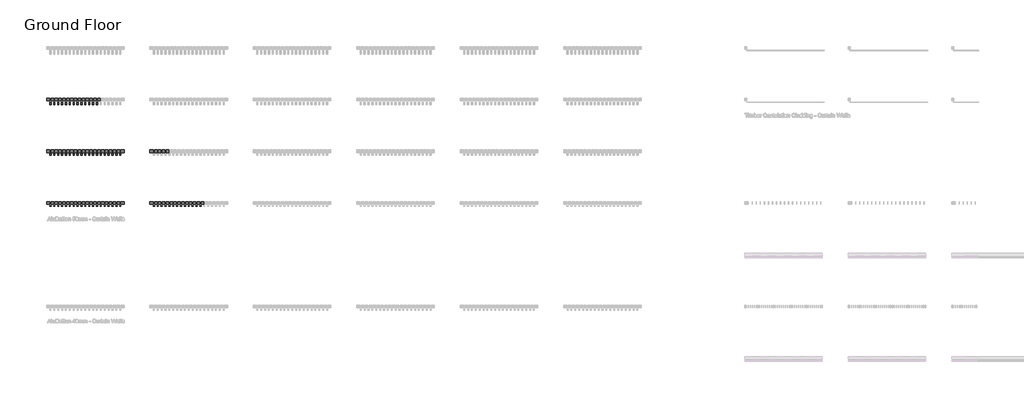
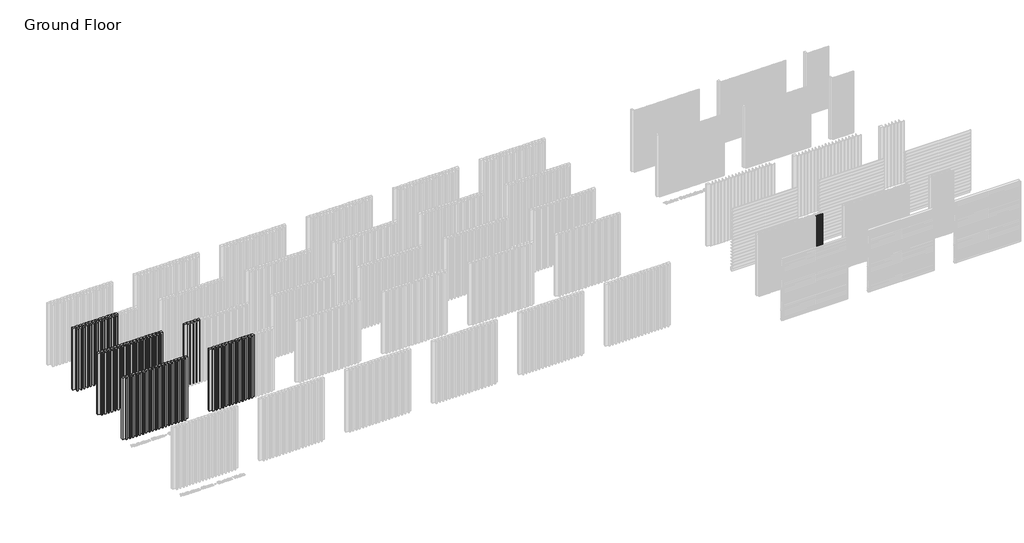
# One storey, part 12 of 350: 73 plates, 68 members.
"""IFC4 building model written with IfcOpenShell, lengths in millimetres."""

from ifc_helpers import new_model, si_unit, origin, place, context, project, spatial, transform, mapped, element, save
from components import rectangular_mullion_1e7650be, rectangular_mullion_894c3da7, rectangular_mullion_114f6a8f, rectangular_mullion_e9fc8109, empty_system_panel_empty_a8601f27, empty_system_panel_empty_23ba90fe, empty_system_panel_empty_02e968fa

model = new_model("IFC4")

# Units and contexts
model_context = context("Model", 3, world=origin())
ifc_project = project(units=[si_unit("LENGTHUNIT", "METRE", prefix="MILLI")], contexts=[model_context])

# Site, building, storey
site = spatial("IfcSite", under=ifc_project)
building = spatial("IfcBuilding", under=site)
storey = spatial("IfcBuildingStorey", under=building, Name="Ground Floor", Elevation=0.0)

# Members
placement = place(None, origin())
rectangular_mullion_shape = rectangular_mullion_1e7650be(model_context)
element("IfcMember", 1, ObjectType="Rectangular Mullion : Batten_Aluminium_Modinex_AluBatten_50x50_AfricanEbony", at=placement, inside=storey, context=model_context, shape_type="MappedRepresentation", body=[
    mapped(rectangular_mullion_shape, transform((2066.4361642, 20968.2978302, 0.0), x_axis=(1.0, 0.0, 0.0), y_axis=(0.0, -1.0, 0.0), z_axis=(0.0, 0.0, -1.0))),
])
element("IfcMember", 2, ObjectType="Rectangular Mullion : Batten_Aluminium_Modinex_AluBatten_50x50_AfricanEbony", at=placement, inside=storey, context=model_context, shape_type="MappedRepresentation", body=[
    mapped(rectangular_mullion_shape, transform((2216.4361642, 20968.2978302, 0.0), x_axis=(1.0, 0.0, 0.0), y_axis=(0.0, -1.0, 0.0), z_axis=(0.0, 0.0, -1.0))),
])
element("IfcMember", 3, ObjectType="Rectangular Mullion : Batten_Aluminium_Modinex_AluBatten_50x50_AfricanEbony", at=placement, inside=storey, context=model_context, shape_type="MappedRepresentation", body=[
    mapped(rectangular_mullion_shape, transform((2366.4361642, 20968.2978302, 0.0), x_axis=(1.0, 0.0, 0.0), y_axis=(0.0, -1.0, 0.0), z_axis=(0.0, 0.0, -1.0))),
])
element("IfcMember", 4, ObjectType="Rectangular Mullion : Batten_Aluminium_Modinex_AluBatten_50x50_AfricanEbony", at=placement, inside=storey, context=model_context, shape_type="MappedRepresentation", body=[
    mapped(rectangular_mullion_shape, transform((2516.4361642, 20968.2978302, 0.0), x_axis=(1.0, 0.0, 0.0), y_axis=(0.0, -1.0, 0.0), z_axis=(0.0, 0.0, -1.0))),
])
element("IfcMember", 5, ObjectType="Rectangular Mullion : Batten_Aluminium_Modinex_AluBatten_50x50_AfricanEbony", at=placement, inside=storey, context=model_context, shape_type="MappedRepresentation", body=[
    mapped(rectangular_mullion_shape, transform((2666.4361642, 20968.2978302, 0.0), x_axis=(1.0, 0.0, 0.0), y_axis=(0.0, -1.0, 0.0), z_axis=(0.0, 0.0, -1.0))),
])
element("IfcMember", 6, ObjectType="Rectangular Mullion : Batten_Aluminium_Modinex_AluBatten_50x50_AfricanEbony", at=placement, inside=storey, context=model_context, shape_type="MappedRepresentation", body=[
    mapped(rectangular_mullion_shape, transform((2816.4361642, 20968.2978302, 0.0), x_axis=(1.0, 0.0, 0.0), y_axis=(0.0, -1.0, 0.0), z_axis=(0.0, 0.0, -1.0))),
])
element("IfcMember", 7, ObjectType="Rectangular Mullion : Batten_Aluminium_Modinex_AluBatten_50x50_AfricanEbony", at=placement, inside=storey, context=model_context, shape_type="MappedRepresentation", body=[
    mapped(rectangular_mullion_shape, transform((2966.4361642, 20968.2978302, 0.0), x_axis=(1.0, 0.0, 0.0), y_axis=(0.0, -1.0, 0.0), z_axis=(0.0, 0.0, -1.0))),
])
element("IfcMember", 8, ObjectType="Rectangular Mullion : Batten_Aluminium_Modinex_AluBatten_50x50_AfricanEbony", at=placement, inside=storey, context=model_context, shape_type="MappedRepresentation", body=[
    mapped(rectangular_mullion_shape, transform((3116.4361642, 20968.2978302, 0.0), x_axis=(1.0, 0.0, 0.0), y_axis=(0.0, -1.0, 0.0), z_axis=(0.0, 0.0, -1.0))),
])
element("IfcMember", 9, ObjectType="Rectangular Mullion : Batten_Aluminium_Modinex_AluBatten_50x50_AfricanEbony", at=placement, inside=storey, context=model_context, shape_type="MappedRepresentation", body=[
    mapped(rectangular_mullion_shape, transform((3266.4361642, 20968.2978302, 0.0), x_axis=(1.0, 0.0, 0.0), y_axis=(0.0, -1.0, 0.0), z_axis=(0.0, 0.0, -1.0))),
])
element("IfcMember", 10, ObjectType="Rectangular Mullion : Batten_Aluminium_Modinex_AluBatten_50x50_AfricanEbony", at=placement, inside=storey, context=model_context, shape_type="MappedRepresentation", body=[
    mapped(rectangular_mullion_shape, transform((3416.4361642, 20968.2978302, 0.0), x_axis=(1.0, 0.0, 0.0), y_axis=(0.0, -1.0, 0.0), z_axis=(0.0, 0.0, -1.0))),
])
element("IfcMember", 11, ObjectType="Rectangular Mullion : Batten_Aluminium_Modinex_AluBatten_50x50_AfricanEbony", at=placement, inside=storey, context=model_context, shape_type="MappedRepresentation", body=[
    mapped(rectangular_mullion_shape, transform((3566.4361642, 20968.2978302, 0.0), x_axis=(1.0, 0.0, 0.0), y_axis=(0.0, -1.0, 0.0), z_axis=(0.0, 0.0, -1.0))),
])
element("IfcMember", 12, ObjectType="Rectangular Mullion : Batten_Aluminium_Modinex_AluBatten_50x50_AfricanEbony", at=placement, inside=storey, context=model_context, shape_type="MappedRepresentation", body=[
    mapped(rectangular_mullion_shape, transform((3716.4361642, 20968.2978302, 0.0), x_axis=(1.0, 0.0, 0.0), y_axis=(0.0, -1.0, 0.0), z_axis=(0.0, 0.0, -1.0))),
])
element("IfcMember", 13, ObjectType="Rectangular Mullion : Batten_Aluminium_Modinex_AluBatten_50x50_AfricanEbony", at=placement, inside=storey, context=model_context, shape_type="MappedRepresentation", body=[
    mapped(rectangular_mullion_shape, transform((3866.4361642, 20968.2978302, 0.0), x_axis=(1.0, 0.0, 0.0), y_axis=(0.0, -1.0, 0.0), z_axis=(0.0, 0.0, -1.0))),
])
element("IfcMember", 14, ObjectType="Rectangular Mullion : Batten_Aluminium_Modinex_AluBatten_50x50_AfricanEbony", at=placement, inside=storey, context=model_context, shape_type="MappedRepresentation", body=[
    mapped(rectangular_mullion_shape, transform((4016.4361642, 20968.2978302, 0.0), x_axis=(1.0, 0.0, 0.0), y_axis=(0.0, -1.0, 0.0), z_axis=(0.0, 0.0, -1.0))),
])
element("IfcMember", 15, ObjectType="Rectangular Mullion : Batten_Aluminium_Modinex_AluBatten_50x50_AfricanEbony", at=placement, inside=storey, context=model_context, shape_type="MappedRepresentation", body=[
    mapped(rectangular_mullion_shape, transform((4166.4361642, 20968.2978302, 0.0), x_axis=(1.0, 0.0, 0.0), y_axis=(0.0, -1.0, 0.0), z_axis=(0.0, 0.0, -1.0))),
])
element("IfcMember", 16, ObjectType="Rectangular Mullion : Batten_Aluminium_Modinex_AluBatten_50x50_AfricanEbony", at=placement, inside=storey, context=model_context, shape_type="MappedRepresentation", body=[
    mapped(rectangular_mullion_shape, transform((4316.4361642, 20968.2978302, 0.0), x_axis=(1.0, 0.0, 0.0), y_axis=(0.0, -1.0, 0.0), z_axis=(0.0, 0.0, -1.0))),
])
element("IfcMember", 17, ObjectType="Rectangular Mullion : Batten_Aluminium_Modinex_AluBatten_50x50_AfricanEbony", at=placement, inside=storey, context=model_context, shape_type="MappedRepresentation", body=[
    mapped(rectangular_mullion_shape, transform((4466.4361642, 20968.2978302, 0.0), x_axis=(1.0, 0.0, 0.0), y_axis=(0.0, -1.0, 0.0), z_axis=(0.0, 0.0, -1.0))),
])
element("IfcMember", 18, ObjectType="Rectangular Mullion : Batten_Aluminium_Modinex_AluBatten_50x50_AfricanEbony", at=placement, inside=storey, context=model_context, shape_type="MappedRepresentation", body=[
    mapped(rectangular_mullion_shape, transform((4616.4361642, 20968.2978302, 0.0), x_axis=(1.0, 0.0, 0.0), y_axis=(0.0, -1.0, 0.0), z_axis=(0.0, 0.0, -1.0))),
])
element("IfcMember", 19, ObjectType="Rectangular Mullion : Batten_Aluminium_Modinex_AluBatten_50x50_AfricanEbony", at=placement, inside=storey, context=model_context, shape_type="MappedRepresentation", body=[
    mapped(rectangular_mullion_shape, transform((4766.4361642, 20968.2978302, 0.0), x_axis=(1.0, 0.0, 0.0), y_axis=(0.0, -1.0, 0.0), z_axis=(0.0, 0.0, -1.0))),
])
rectangular_mullion_2_shape = rectangular_mullion_894c3da7(model_context)
element("IfcMember", 20, ObjectType="Rectangular Mullion : Cladding_Aluminium_Modinex_AluSelekta_Channel_75_AfricanEbony", at=placement, inside=storey, context=model_context, shape_type="MappedRepresentation", body=[
    mapped(rectangular_mullion_2_shape, transform((31616.4361642, 14968.2978302, 0.0), x_axis=(1.0, 0.0, 0.0), y_axis=(0.0, -1.0, 0.0), z_axis=(0.0, 0.0, -1.0))),
])
element("IfcMember", 21, ObjectType="Rectangular Mullion : Cladding_Aluminium_Modinex_AluSelekta_Channel_75_AfricanEbony", at=placement, inside=storey, context=model_context, shape_type="MappedRepresentation", body=[
    mapped(rectangular_mullion_2_shape, transform((31691.4361642, 14968.2978302, 0.0), x_axis=(1.0, 0.0, 0.0), y_axis=(0.0, -1.0, 0.0), z_axis=(0.0, 0.0, -1.0))),
])
element("IfcMember", 22, ObjectType="Rectangular Mullion : Cladding_Aluminium_Modinex_AluSelekta_Channel_75_AfricanEbony", at=placement, inside=storey, context=model_context, shape_type="MappedRepresentation", body=[
    mapped(rectangular_mullion_2_shape, transform((31766.4361642, 14968.2978302, 0.0), x_axis=(1.0, 0.0, 0.0), y_axis=(0.0, -1.0, 0.0), z_axis=(0.0, 0.0, -1.0))),
])
element("IfcMember", 23, ObjectType="Rectangular Mullion : Cladding_Aluminium_Modinex_AluSelekta_Channel_75_AfricanEbony", at=placement, inside=storey, context=model_context, shape_type="MappedRepresentation", body=[
    mapped(rectangular_mullion_2_shape, transform((31841.4361642, 14968.2978302, 0.0), x_axis=(1.0, 0.0, 0.0), y_axis=(0.0, -1.0, 0.0), z_axis=(0.0, 0.0, -1.0))),
])
rectangular_mullion_3_shape = rectangular_mullion_114f6a8f(model_context)
element("IfcMember", 24, ObjectType="Rectangular Mullion : Batten_Aluminium_Modinex_AluBatten_50x25_AfricanEbony", at=placement, inside=storey, context=model_context, shape_type="MappedRepresentation", body=[
    mapped(rectangular_mullion_3_shape, transform((2066.4361642, 18968.2978302, 0.0), x_axis=(1.0, 0.0, 0.0), y_axis=(0.0, -1.0, 0.0), z_axis=(0.0, 0.0, -1.0))),
])
element("IfcMember", 25, ObjectType="Rectangular Mullion : Batten_Aluminium_Modinex_AluBatten_50x25_AfricanEbony", at=placement, inside=storey, context=model_context, shape_type="MappedRepresentation", body=[
    mapped(rectangular_mullion_3_shape, transform((2216.4361642, 18968.2978302, 0.0), x_axis=(1.0, 0.0, 0.0), y_axis=(0.0, -1.0, 0.0), z_axis=(0.0, 0.0, -1.0))),
])
element("IfcMember", 26, ObjectType="Rectangular Mullion : Batten_Aluminium_Modinex_AluBatten_50x25_AfricanEbony", at=placement, inside=storey, context=model_context, shape_type="MappedRepresentation", body=[
    mapped(rectangular_mullion_3_shape, transform((2366.4361642, 18968.2978302, 0.0), x_axis=(1.0, 0.0, 0.0), y_axis=(0.0, -1.0, 0.0), z_axis=(0.0, 0.0, -1.0))),
])
element("IfcMember", 27, ObjectType="Rectangular Mullion : Batten_Aluminium_Modinex_AluBatten_50x25_AfricanEbony", at=placement, inside=storey, context=model_context, shape_type="MappedRepresentation", body=[
    mapped(rectangular_mullion_3_shape, transform((2516.4361642, 18968.2978302, 0.0), x_axis=(1.0, 0.0, 0.0), y_axis=(0.0, -1.0, 0.0), z_axis=(0.0, 0.0, -1.0))),
])
element("IfcMember", 28, ObjectType="Rectangular Mullion : Batten_Aluminium_Modinex_AluBatten_50x25_AfricanEbony", at=placement, inside=storey, context=model_context, shape_type="MappedRepresentation", body=[
    mapped(rectangular_mullion_3_shape, transform((2666.4361642, 18968.2978302, 0.0), x_axis=(1.0, 0.0, 0.0), y_axis=(0.0, -1.0, 0.0), z_axis=(0.0, 0.0, -1.0))),
])
element("IfcMember", 29, ObjectType="Rectangular Mullion : Batten_Aluminium_Modinex_AluBatten_50x25_AfricanEbony", at=placement, inside=storey, context=model_context, shape_type="MappedRepresentation", body=[
    mapped(rectangular_mullion_3_shape, transform((2816.4361642, 18968.2978302, 0.0), x_axis=(1.0, 0.0, 0.0), y_axis=(0.0, -1.0, 0.0), z_axis=(0.0, 0.0, -1.0))),
])
element("IfcMember", 30, ObjectType="Rectangular Mullion : Batten_Aluminium_Modinex_AluBatten_50x25_AfricanEbony", at=placement, inside=storey, context=model_context, shape_type="MappedRepresentation", body=[
    mapped(rectangular_mullion_3_shape, transform((2966.4361642, 18968.2978302, 0.0), x_axis=(1.0, 0.0, 0.0), y_axis=(0.0, -1.0, 0.0), z_axis=(0.0, 0.0, -1.0))),
])
element("IfcMember", 31, ObjectType="Rectangular Mullion : Batten_Aluminium_Modinex_AluBatten_50x25_AfricanEbony", at=placement, inside=storey, context=model_context, shape_type="MappedRepresentation", body=[
    mapped(rectangular_mullion_3_shape, transform((3116.4361642, 18968.2978302, 0.0), x_axis=(1.0, 0.0, 0.0), y_axis=(0.0, -1.0, 0.0), z_axis=(0.0, 0.0, -1.0))),
])
element("IfcMember", 32, ObjectType="Rectangular Mullion : Batten_Aluminium_Modinex_AluBatten_50x25_AfricanEbony", at=placement, inside=storey, context=model_context, shape_type="MappedRepresentation", body=[
    mapped(rectangular_mullion_3_shape, transform((3266.4361642, 18968.2978302, 0.0), x_axis=(1.0, 0.0, 0.0), y_axis=(0.0, -1.0, 0.0), z_axis=(0.0, 0.0, -1.0))),
])
element("IfcMember", 33, ObjectType="Rectangular Mullion : Batten_Aluminium_Modinex_AluBatten_50x25_AfricanEbony", at=placement, inside=storey, context=model_context, shape_type="MappedRepresentation", body=[
    mapped(rectangular_mullion_3_shape, transform((3416.4361642, 18968.2978302, 0.0), x_axis=(1.0, 0.0, 0.0), y_axis=(0.0, -1.0, 0.0), z_axis=(0.0, 0.0, -1.0))),
])
element("IfcMember", 34, ObjectType="Rectangular Mullion : Batten_Aluminium_Modinex_AluBatten_50x25_AfricanEbony", at=placement, inside=storey, context=model_context, shape_type="MappedRepresentation", body=[
    mapped(rectangular_mullion_3_shape, transform((3566.4361642, 18968.2978302, 0.0), x_axis=(1.0, 0.0, 0.0), y_axis=(0.0, -1.0, 0.0), z_axis=(0.0, 0.0, -1.0))),
])
element("IfcMember", 35, ObjectType="Rectangular Mullion : Batten_Aluminium_Modinex_AluBatten_50x25_AfricanEbony", at=placement, inside=storey, context=model_context, shape_type="MappedRepresentation", body=[
    mapped(rectangular_mullion_3_shape, transform((3716.4361642, 18968.2978302, 0.0), x_axis=(1.0, 0.0, 0.0), y_axis=(0.0, -1.0, 0.0), z_axis=(0.0, 0.0, -1.0))),
])
element("IfcMember", 36, ObjectType="Rectangular Mullion : Batten_Aluminium_Modinex_AluBatten_50x25_AfricanEbony", at=placement, inside=storey, context=model_context, shape_type="MappedRepresentation", body=[
    mapped(rectangular_mullion_3_shape, transform((3866.4361642, 18968.2978302, 0.0), x_axis=(1.0, 0.0, 0.0), y_axis=(0.0, -1.0, 0.0), z_axis=(0.0, 0.0, -1.0))),
])
element("IfcMember", 37, ObjectType="Rectangular Mullion : Batten_Aluminium_Modinex_AluBatten_50x25_AfricanEbony", at=placement, inside=storey, context=model_context, shape_type="MappedRepresentation", body=[
    mapped(rectangular_mullion_3_shape, transform((4016.4361642, 18968.2978302, 0.0), x_axis=(1.0, 0.0, 0.0), y_axis=(0.0, -1.0, 0.0), z_axis=(0.0, 0.0, -1.0))),
])
element("IfcMember", 38, ObjectType="Rectangular Mullion : Batten_Aluminium_Modinex_AluBatten_50x25_AfricanEbony", at=placement, inside=storey, context=model_context, shape_type="MappedRepresentation", body=[
    mapped(rectangular_mullion_3_shape, transform((4166.4361642, 18968.2978302, 0.0), x_axis=(1.0, 0.0, 0.0), y_axis=(0.0, -1.0, 0.0), z_axis=(0.0, 0.0, -1.0))),
])
element("IfcMember", 39, ObjectType="Rectangular Mullion : Batten_Aluminium_Modinex_AluBatten_50x25_AfricanEbony", at=placement, inside=storey, context=model_context, shape_type="MappedRepresentation", body=[
    mapped(rectangular_mullion_3_shape, transform((4316.4361642, 18968.2978302, 0.0), x_axis=(1.0, 0.0, 0.0), y_axis=(0.0, -1.0, 0.0), z_axis=(0.0, 0.0, -1.0))),
])
element("IfcMember", 40, ObjectType="Rectangular Mullion : Batten_Aluminium_Modinex_AluBatten_50x25_AfricanEbony", at=placement, inside=storey, context=model_context, shape_type="MappedRepresentation", body=[
    mapped(rectangular_mullion_3_shape, transform((4466.4361642, 18968.2978302, 0.0), x_axis=(1.0, 0.0, 0.0), y_axis=(0.0, -1.0, 0.0), z_axis=(0.0, 0.0, -1.0))),
])
element("IfcMember", 41, ObjectType="Rectangular Mullion : Batten_Aluminium_Modinex_AluBatten_50x25_AfricanEbony", at=placement, inside=storey, context=model_context, shape_type="MappedRepresentation", body=[
    mapped(rectangular_mullion_3_shape, transform((4616.4361642, 18968.2978302, 0.0), x_axis=(1.0, 0.0, 0.0), y_axis=(0.0, -1.0, 0.0), z_axis=(0.0, 0.0, -1.0))),
])
element("IfcMember", 42, ObjectType="Rectangular Mullion : Batten_Aluminium_Modinex_AluBatten_50x25_AfricanEbony", at=placement, inside=storey, context=model_context, shape_type="MappedRepresentation", body=[
    mapped(rectangular_mullion_3_shape, transform((4766.4361642, 18968.2978302, 0.0), x_axis=(1.0, 0.0, 0.0), y_axis=(0.0, -1.0, 0.0), z_axis=(0.0, 0.0, -1.0))),
])
element("IfcMember", 43, ObjectType="Rectangular Mullion : Batten_Aluminium_Modinex_AluBatten_50x25_Cedar", at=placement, inside=storey, context=model_context, shape_type="MappedRepresentation", body=[
    mapped(rectangular_mullion_3_shape, transform((6066.4361642, 18968.2978302, 0.0), x_axis=(1.0, 0.0, 0.0), y_axis=(0.0, -1.0, 0.0), z_axis=(0.0, 0.0, -1.0))),
])
element("IfcMember", 44, ObjectType="Rectangular Mullion : Batten_Aluminium_Modinex_AluBatten_50x25_Cedar", at=placement, inside=storey, context=model_context, shape_type="MappedRepresentation", body=[
    mapped(rectangular_mullion_3_shape, transform((6216.4361642, 18968.2978302, 0.0), x_axis=(1.0, 0.0, 0.0), y_axis=(0.0, -1.0, 0.0), z_axis=(0.0, 0.0, -1.0))),
])
element("IfcMember", 45, ObjectType="Rectangular Mullion : Batten_Aluminium_Modinex_AluBatten_50x25_Cedar", at=placement, inside=storey, context=model_context, shape_type="MappedRepresentation", body=[
    mapped(rectangular_mullion_3_shape, transform((6366.4361642, 18968.2978302, 0.0), x_axis=(1.0, 0.0, 0.0), y_axis=(0.0, -1.0, 0.0), z_axis=(0.0, 0.0, -1.0))),
])
element("IfcMember", 46, ObjectType="Rectangular Mullion : Batten_Aluminium_Modinex_AluBatten_50x25_Cedar", at=placement, inside=storey, context=model_context, shape_type="MappedRepresentation", body=[
    mapped(rectangular_mullion_3_shape, transform((6516.4361642, 18968.2978302, 0.0), x_axis=(1.0, 0.0, 0.0), y_axis=(0.0, -1.0, 0.0), z_axis=(0.0, 0.0, -1.0))),
])
element("IfcMember", 47, ObjectType="Rectangular Mullion : Batten_Aluminium_Modinex_AluBatten_50x25_Cedar", at=placement, inside=storey, context=model_context, shape_type="MappedRepresentation", body=[
    mapped(rectangular_mullion_3_shape, transform((6666.4361642, 18968.2978302, 0.0), x_axis=(1.0, 0.0, 0.0), y_axis=(0.0, -1.0, 0.0), z_axis=(0.0, 0.0, -1.0))),
])
element("IfcMember", 48, ObjectType="Rectangular Mullion : Batten_Aluminium_Modinex_AluBatten_50x25_Cedar", at=placement, inside=storey, context=model_context, shape_type="MappedRepresentation", body=[
    mapped(rectangular_mullion_3_shape, transform((6816.4361642, 18968.2978302, 0.0), x_axis=(1.0, 0.0, 0.0), y_axis=(0.0, -1.0, 0.0), z_axis=(0.0, 0.0, -1.0))),
])
element("IfcMember", 49, ObjectType="Rectangular Mullion : Batten_Aluminium_Modinex_AluBatten_50x25_Cedar", at=placement, inside=storey, context=model_context, shape_type="MappedRepresentation", body=[
    mapped(rectangular_mullion_3_shape, transform((6966.4361642, 18968.2978302, 0.0), x_axis=(1.0, 0.0, 0.0), y_axis=(0.0, -1.0, 0.0), z_axis=(0.0, 0.0, -1.0))),
])
element("IfcMember", 50, ObjectType="Rectangular Mullion : Batten_Aluminium_Modinex_AluBatten_50x25_Cedar", at=placement, inside=storey, context=model_context, shape_type="MappedRepresentation", body=[
    mapped(rectangular_mullion_3_shape, transform((7116.4361642, 18968.2978302, 0.0), x_axis=(1.0, 0.0, 0.0), y_axis=(0.0, -1.0, 0.0), z_axis=(0.0, 0.0, -1.0))),
])
element("IfcMember", 51, ObjectType="Rectangular Mullion : Batten_Aluminium_Modinex_AluBatten_50x25_Cedar", at=placement, inside=storey, context=model_context, shape_type="MappedRepresentation", body=[
    mapped(rectangular_mullion_3_shape, transform((7266.4361642, 18968.2978302, 0.0), x_axis=(1.0, 0.0, 0.0), y_axis=(0.0, -1.0, 0.0), z_axis=(0.0, 0.0, -1.0))),
])
element("IfcMember", 52, ObjectType="Rectangular Mullion : Batten_Aluminium_Modinex_AluBatten_50x25_Cedar", at=placement, inside=storey, context=model_context, shape_type="MappedRepresentation", body=[
    mapped(rectangular_mullion_3_shape, transform((7416.4361642, 18968.2978302, 0.0), x_axis=(1.0, 0.0, 0.0), y_axis=(0.0, -1.0, 0.0), z_axis=(0.0, 0.0, -1.0))),
])
element("IfcMember", 53, ObjectType="Rectangular Mullion : Batten_Aluminium_Modinex_AluBatten_50x25_Cedar", at=placement, inside=storey, context=model_context, shape_type="MappedRepresentation", body=[
    mapped(rectangular_mullion_3_shape, transform((7566.4361642, 18968.2978302, 0.0), x_axis=(1.0, 0.0, 0.0), y_axis=(0.0, -1.0, 0.0), z_axis=(0.0, 0.0, -1.0))),
])
element("IfcMember", 54, ObjectType="Rectangular Mullion : Batten_Aluminium_Modinex_AluBatten_50x25_Cedar", at=placement, inside=storey, context=model_context, shape_type="MappedRepresentation", body=[
    mapped(rectangular_mullion_3_shape, transform((7716.4361642, 18968.2978302, 0.0), x_axis=(1.0, 0.0, 0.0), y_axis=(0.0, -1.0, 0.0), z_axis=(0.0, 0.0, -1.0))),
])
element("IfcMember", 55, ObjectType="Rectangular Mullion : Batten_Aluminium_Modinex_AluBatten_50x25_Cedar", at=placement, inside=storey, context=model_context, shape_type="MappedRepresentation", body=[
    mapped(rectangular_mullion_3_shape, transform((7866.4361642, 18968.2978302, 0.0), x_axis=(1.0, 0.0, 0.0), y_axis=(0.0, -1.0, 0.0), z_axis=(0.0, 0.0, -1.0))),
])
rectangular_mullion_4_shape = rectangular_mullion_e9fc8109(model_context)
element("IfcMember", 56, ObjectType="Rectangular Mullion : Batten_Aluminium_Modinex_AluBatten_50x100_AfricanEbony", at=placement, inside=storey, context=model_context, shape_type="MappedRepresentation", body=[
    mapped(rectangular_mullion_4_shape, transform((2066.4361642, 22968.2978302, 0.0), x_axis=(1.0, 0.0, 0.0), y_axis=(0.0, -1.0, 0.0), z_axis=(0.0, 0.0, -1.0))),
])
element("IfcMember", 57, ObjectType="Rectangular Mullion : Batten_Aluminium_Modinex_AluBatten_50x100_AfricanEbony", at=placement, inside=storey, context=model_context, shape_type="MappedRepresentation", body=[
    mapped(rectangular_mullion_4_shape, transform((2216.4361642, 22968.2978302, 0.0), x_axis=(1.0, 0.0, 0.0), y_axis=(0.0, -1.0, 0.0), z_axis=(0.0, 0.0, -1.0))),
])
element("IfcMember", 58, ObjectType="Rectangular Mullion : Batten_Aluminium_Modinex_AluBatten_50x100_AfricanEbony", at=placement, inside=storey, context=model_context, shape_type="MappedRepresentation", body=[
    mapped(rectangular_mullion_4_shape, transform((2366.4361642, 22968.2978302, 0.0), x_axis=(1.0, 0.0, 0.0), y_axis=(0.0, -1.0, 0.0), z_axis=(0.0, 0.0, -1.0))),
])
element("IfcMember", 59, ObjectType="Rectangular Mullion : Batten_Aluminium_Modinex_AluBatten_50x100_AfricanEbony", at=placement, inside=storey, context=model_context, shape_type="MappedRepresentation", body=[
    mapped(rectangular_mullion_4_shape, transform((2516.4361642, 22968.2978302, 0.0), x_axis=(1.0, 0.0, 0.0), y_axis=(0.0, -1.0, 0.0), z_axis=(0.0, 0.0, -1.0))),
])
element("IfcMember", 60, ObjectType="Rectangular Mullion : Batten_Aluminium_Modinex_AluBatten_50x100_AfricanEbony", at=placement, inside=storey, context=model_context, shape_type="MappedRepresentation", body=[
    mapped(rectangular_mullion_4_shape, transform((2666.4361642, 22968.2978302, 0.0), x_axis=(1.0, 0.0, 0.0), y_axis=(0.0, -1.0, 0.0), z_axis=(0.0, 0.0, -1.0))),
])
element("IfcMember", 61, ObjectType="Rectangular Mullion : Batten_Aluminium_Modinex_AluBatten_50x100_AfricanEbony", at=placement, inside=storey, context=model_context, shape_type="MappedRepresentation", body=[
    mapped(rectangular_mullion_4_shape, transform((2816.4361642, 22968.2978302, 0.0), x_axis=(1.0, 0.0, 0.0), y_axis=(0.0, -1.0, 0.0), z_axis=(0.0, 0.0, -1.0))),
])
element("IfcMember", 62, ObjectType="Rectangular Mullion : Batten_Aluminium_Modinex_AluBatten_50x100_AfricanEbony", at=placement, inside=storey, context=model_context, shape_type="MappedRepresentation", body=[
    mapped(rectangular_mullion_4_shape, transform((2966.4361642, 22968.2978302, 0.0), x_axis=(1.0, 0.0, 0.0), y_axis=(0.0, -1.0, 0.0), z_axis=(0.0, 0.0, -1.0))),
])
element("IfcMember", 63, ObjectType="Rectangular Mullion : Batten_Aluminium_Modinex_AluBatten_50x100_AfricanEbony", at=placement, inside=storey, context=model_context, shape_type="MappedRepresentation", body=[
    mapped(rectangular_mullion_4_shape, transform((3116.4361642, 22968.2978302, 0.0), x_axis=(1.0, 0.0, 0.0), y_axis=(0.0, -1.0, 0.0), z_axis=(0.0, 0.0, -1.0))),
])
element("IfcMember", 64, ObjectType="Rectangular Mullion : Batten_Aluminium_Modinex_AluBatten_50x100_AfricanEbony", at=placement, inside=storey, context=model_context, shape_type="MappedRepresentation", body=[
    mapped(rectangular_mullion_4_shape, transform((3266.4361642, 22968.2978302, 0.0), x_axis=(1.0, 0.0, 0.0), y_axis=(0.0, -1.0, 0.0), z_axis=(0.0, 0.0, -1.0))),
])
element("IfcMember", 65, ObjectType="Rectangular Mullion : Batten_Aluminium_Modinex_AluBatten_50x100_AfricanEbony", at=placement, inside=storey, context=model_context, shape_type="MappedRepresentation", body=[
    mapped(rectangular_mullion_4_shape, transform((3416.4361642, 22968.2978302, 0.0), x_axis=(1.0, 0.0, 0.0), y_axis=(0.0, -1.0, 0.0), z_axis=(0.0, 0.0, -1.0))),
])
element("IfcMember", 66, ObjectType="Rectangular Mullion : Batten_Aluminium_Modinex_AluBatten_50x100_AfricanEbony", at=placement, inside=storey, context=model_context, shape_type="MappedRepresentation", body=[
    mapped(rectangular_mullion_4_shape, transform((3566.4361642, 22968.2978302, 0.0), x_axis=(1.0, 0.0, 0.0), y_axis=(0.0, -1.0, 0.0), z_axis=(0.0, 0.0, -1.0))),
])
element("IfcMember", 67, ObjectType="Rectangular Mullion : Batten_Aluminium_Modinex_AluBatten_50x100_AfricanEbony", at=placement, inside=storey, context=model_context, shape_type="MappedRepresentation", body=[
    mapped(rectangular_mullion_4_shape, transform((3716.4361642, 22968.2978302, 0.0), x_axis=(1.0, 0.0, 0.0), y_axis=(0.0, -1.0, 0.0), z_axis=(0.0, 0.0, -1.0))),
])
element("IfcMember", 68, ObjectType="Rectangular Mullion : Batten_Aluminium_Modinex_AluBatten_50x100_AfricanEbony", at=placement, inside=storey, context=model_context, shape_type="MappedRepresentation", body=[
    mapped(rectangular_mullion_4_shape, transform((3866.4361642, 22968.2978302, 0.0), x_axis=(1.0, 0.0, 0.0), y_axis=(0.0, -1.0, 0.0), z_axis=(0.0, 0.0, -1.0))),
])

# Plates
empty_system_panel_empty_shape = empty_system_panel_empty_a8601f27(model_context)
element("IfcPlate", 69, ObjectType="Empty System Panel : Empty", at=placement, inside=storey, context=model_context, shape_type="MappedRepresentation", body=[
    mapped(empty_system_panel_empty_shape, transform((1978.9361641, 18968.2978302, 0.0), x_axis=(1.0, 0.0, 0.0), y_axis=(0.0, 1.0, 0.0), z_axis=(0.0, 0.0, 1.0))),
])
element("IfcPlate", 70, ObjectType="Empty System Panel : Empty", at=placement, inside=storey, context=model_context, shape_type="MappedRepresentation", body=[
    mapped(empty_system_panel_empty_shape, transform((5978.9361641, 18968.2978302, 0.0), x_axis=(1.0, 0.0, 0.0), y_axis=(0.0, 1.0, 0.0), z_axis=(0.0, 0.0, 1.0))),
])
element("IfcPlate", 71, ObjectType="Empty System Panel : Empty", at=placement, inside=storey, context=model_context, shape_type="MappedRepresentation", body=[
    mapped(empty_system_panel_empty_shape, transform((1978.9361641, 20968.2978302, 0.0), x_axis=(1.0, 0.0, 0.0), y_axis=(0.0, 1.0, 0.0), z_axis=(0.0, 0.0, 1.0))),
])
element("IfcPlate", 72, ObjectType="Empty System Panel : Empty", at=placement, inside=storey, context=model_context, shape_type="MappedRepresentation", body=[
    mapped(empty_system_panel_empty_shape, transform((5978.9361641, 20968.2978302, 0.0), x_axis=(1.0, 0.0, 0.0), y_axis=(0.0, 1.0, 0.0), z_axis=(0.0, 0.0, 1.0))),
])
element("IfcPlate", 73, ObjectType="Empty System Panel : Empty", at=placement, inside=storey, context=model_context, shape_type="MappedRepresentation", body=[
    mapped(empty_system_panel_empty_shape, transform((1978.9361641, 22968.2978302, 0.0), x_axis=(1.0, 0.0, 0.0), y_axis=(0.0, 1.0, 0.0), z_axis=(0.0, 0.0, 1.0))),
])
empty_system_panel_empty_2_shape = empty_system_panel_empty_23ba90fe(model_context)
element("IfcPlate", 74, ObjectType="Empty System Panel : Empty", at=placement, inside=storey, context=model_context, shape_type="MappedRepresentation", body=[
    mapped(empty_system_panel_empty_2_shape, transform((2141.4361642, 18968.2978302, 0.0), x_axis=(1.0, 0.0, 0.0), y_axis=(0.0, 1.0, 0.0), z_axis=(0.0, 0.0, 1.0))),
])
element("IfcPlate", 75, ObjectType="Empty System Panel : Empty", at=placement, inside=storey, context=model_context, shape_type="MappedRepresentation", body=[
    mapped(empty_system_panel_empty_2_shape, transform((2291.4361642, 18968.2978302, 0.0), x_axis=(1.0, 0.0, 0.0), y_axis=(0.0, 1.0, 0.0), z_axis=(0.0, 0.0, 1.0))),
])
element("IfcPlate", 76, ObjectType="Empty System Panel : Empty", at=placement, inside=storey, context=model_context, shape_type="MappedRepresentation", body=[
    mapped(empty_system_panel_empty_2_shape, transform((2441.4361642, 18968.2978302, 0.0), x_axis=(1.0, 0.0, 0.0), y_axis=(0.0, 1.0, 0.0), z_axis=(0.0, 0.0, 1.0))),
])
element("IfcPlate", 77, ObjectType="Empty System Panel : Empty", at=placement, inside=storey, context=model_context, shape_type="MappedRepresentation", body=[
    mapped(empty_system_panel_empty_2_shape, transform((2591.4361642, 18968.2978302, 0.0), x_axis=(1.0, 0.0, 0.0), y_axis=(0.0, 1.0, 0.0), z_axis=(0.0, 0.0, 1.0))),
])
element("IfcPlate", 78, ObjectType="Empty System Panel : Empty", at=placement, inside=storey, context=model_context, shape_type="MappedRepresentation", body=[
    mapped(empty_system_panel_empty_2_shape, transform((2741.4361642, 18968.2978302, 0.0), x_axis=(1.0, 0.0, 0.0), y_axis=(0.0, 1.0, 0.0), z_axis=(0.0, 0.0, 1.0))),
])
element("IfcPlate", 79, ObjectType="Empty System Panel : Empty", at=placement, inside=storey, context=model_context, shape_type="MappedRepresentation", body=[
    mapped(empty_system_panel_empty_2_shape, transform((2891.4361642, 18968.2978302, 0.0), x_axis=(1.0, 0.0, 0.0), y_axis=(0.0, 1.0, 0.0), z_axis=(0.0, 0.0, 1.0))),
])
element("IfcPlate", 80, ObjectType="Empty System Panel : Empty", at=placement, inside=storey, context=model_context, shape_type="MappedRepresentation", body=[
    mapped(empty_system_panel_empty_2_shape, transform((3041.4361642, 18968.2978302, 0.0), x_axis=(1.0, 0.0, 0.0), y_axis=(0.0, 1.0, 0.0), z_axis=(0.0, 0.0, 1.0))),
])
element("IfcPlate", 81, ObjectType="Empty System Panel : Empty", at=placement, inside=storey, context=model_context, shape_type="MappedRepresentation", body=[
    mapped(empty_system_panel_empty_2_shape, transform((3191.4361642, 18968.2978302, 0.0), x_axis=(1.0, 0.0, 0.0), y_axis=(0.0, 1.0, 0.0), z_axis=(0.0, 0.0, 1.0))),
])
element("IfcPlate", 82, ObjectType="Empty System Panel : Empty", at=placement, inside=storey, context=model_context, shape_type="MappedRepresentation", body=[
    mapped(empty_system_panel_empty_2_shape, transform((3341.4361642, 18968.2978302, 0.0), x_axis=(1.0, 0.0, 0.0), y_axis=(0.0, 1.0, 0.0), z_axis=(0.0, 0.0, 1.0))),
])
element("IfcPlate", 83, ObjectType="Empty System Panel : Empty", at=placement, inside=storey, context=model_context, shape_type="MappedRepresentation", body=[
    mapped(empty_system_panel_empty_2_shape, transform((3491.4361642, 18968.2978302, 0.0), x_axis=(1.0, 0.0, 0.0), y_axis=(0.0, 1.0, 0.0), z_axis=(0.0, 0.0, 1.0))),
])
element("IfcPlate", 84, ObjectType="Empty System Panel : Empty", at=placement, inside=storey, context=model_context, shape_type="MappedRepresentation", body=[
    mapped(empty_system_panel_empty_2_shape, transform((3641.4361642, 18968.2978302, 0.0), x_axis=(1.0, 0.0, 0.0), y_axis=(0.0, 1.0, 0.0), z_axis=(0.0, 0.0, 1.0))),
])
element("IfcPlate", 85, ObjectType="Empty System Panel : Empty", at=placement, inside=storey, context=model_context, shape_type="MappedRepresentation", body=[
    mapped(empty_system_panel_empty_2_shape, transform((3791.4361642, 18968.2978302, 0.0), x_axis=(1.0, 0.0, 0.0), y_axis=(0.0, 1.0, 0.0), z_axis=(0.0, 0.0, 1.0))),
])
element("IfcPlate", 86, ObjectType="Empty System Panel : Empty", at=placement, inside=storey, context=model_context, shape_type="MappedRepresentation", body=[
    mapped(empty_system_panel_empty_2_shape, transform((3941.4361642, 18968.2978302, 0.0), x_axis=(1.0, 0.0, 0.0), y_axis=(0.0, 1.0, 0.0), z_axis=(0.0, 0.0, 1.0))),
])
element("IfcPlate", 87, ObjectType="Empty System Panel : Empty", at=placement, inside=storey, context=model_context, shape_type="MappedRepresentation", body=[
    mapped(empty_system_panel_empty_2_shape, transform((4091.4361642, 18968.2978302, 0.0), x_axis=(1.0, 0.0, 0.0), y_axis=(0.0, 1.0, 0.0), z_axis=(0.0, 0.0, 1.0))),
])
element("IfcPlate", 88, ObjectType="Empty System Panel : Empty", at=placement, inside=storey, context=model_context, shape_type="MappedRepresentation", body=[
    mapped(empty_system_panel_empty_2_shape, transform((4241.4361642, 18968.2978302, 0.0), x_axis=(1.0, 0.0, 0.0), y_axis=(0.0, 1.0, 0.0), z_axis=(0.0, 0.0, 1.0))),
])
element("IfcPlate", 89, ObjectType="Empty System Panel : Empty", at=placement, inside=storey, context=model_context, shape_type="MappedRepresentation", body=[
    mapped(empty_system_panel_empty_2_shape, transform((4391.4361642, 18968.2978302, 0.0), x_axis=(1.0, 0.0, 0.0), y_axis=(0.0, 1.0, 0.0), z_axis=(0.0, 0.0, 1.0))),
])
element("IfcPlate", 90, ObjectType="Empty System Panel : Empty", at=placement, inside=storey, context=model_context, shape_type="MappedRepresentation", body=[
    mapped(empty_system_panel_empty_2_shape, transform((4541.4361642, 18968.2978302, 0.0), x_axis=(1.0, 0.0, 0.0), y_axis=(0.0, 1.0, 0.0), z_axis=(0.0, 0.0, 1.0))),
])
element("IfcPlate", 91, ObjectType="Empty System Panel : Empty", at=placement, inside=storey, context=model_context, shape_type="MappedRepresentation", body=[
    mapped(empty_system_panel_empty_2_shape, transform((4691.4361642, 18968.2978302, 0.0), x_axis=(1.0, 0.0, 0.0), y_axis=(0.0, 1.0, 0.0), z_axis=(0.0, 0.0, 1.0))),
])
element("IfcPlate", 92, ObjectType="Empty System Panel : Empty", at=placement, inside=storey, context=model_context, shape_type="MappedRepresentation", body=[
    mapped(empty_system_panel_empty_2_shape, transform((6141.4361642, 18968.2978302, 0.0), x_axis=(1.0, 0.0, 0.0), y_axis=(0.0, 1.0, 0.0), z_axis=(0.0, 0.0, 1.0))),
])
element("IfcPlate", 93, ObjectType="Empty System Panel : Empty", at=placement, inside=storey, context=model_context, shape_type="MappedRepresentation", body=[
    mapped(empty_system_panel_empty_2_shape, transform((6291.4361642, 18968.2978302, 0.0), x_axis=(1.0, 0.0, 0.0), y_axis=(0.0, 1.0, 0.0), z_axis=(0.0, 0.0, 1.0))),
])
element("IfcPlate", 94, ObjectType="Empty System Panel : Empty", at=placement, inside=storey, context=model_context, shape_type="MappedRepresentation", body=[
    mapped(empty_system_panel_empty_2_shape, transform((6441.4361642, 18968.2978302, 0.0), x_axis=(1.0, 0.0, 0.0), y_axis=(0.0, 1.0, 0.0), z_axis=(0.0, 0.0, 1.0))),
])
element("IfcPlate", 95, ObjectType="Empty System Panel : Empty", at=placement, inside=storey, context=model_context, shape_type="MappedRepresentation", body=[
    mapped(empty_system_panel_empty_2_shape, transform((6591.4361642, 18968.2978302, 0.0), x_axis=(1.0, 0.0, 0.0), y_axis=(0.0, 1.0, 0.0), z_axis=(0.0, 0.0, 1.0))),
])
element("IfcPlate", 96, ObjectType="Empty System Panel : Empty", at=placement, inside=storey, context=model_context, shape_type="MappedRepresentation", body=[
    mapped(empty_system_panel_empty_2_shape, transform((6741.4361642, 18968.2978302, 0.0), x_axis=(1.0, 0.0, 0.0), y_axis=(0.0, 1.0, 0.0), z_axis=(0.0, 0.0, 1.0))),
])
element("IfcPlate", 97, ObjectType="Empty System Panel : Empty", at=placement, inside=storey, context=model_context, shape_type="MappedRepresentation", body=[
    mapped(empty_system_panel_empty_2_shape, transform((6891.4361642, 18968.2978302, 0.0), x_axis=(1.0, 0.0, 0.0), y_axis=(0.0, 1.0, 0.0), z_axis=(0.0, 0.0, 1.0))),
])
element("IfcPlate", 98, ObjectType="Empty System Panel : Empty", at=placement, inside=storey, context=model_context, shape_type="MappedRepresentation", body=[
    mapped(empty_system_panel_empty_2_shape, transform((7041.4361642, 18968.2978302, 0.0), x_axis=(1.0, 0.0, 0.0), y_axis=(0.0, 1.0, 0.0), z_axis=(0.0, 0.0, 1.0))),
])
element("IfcPlate", 99, ObjectType="Empty System Panel : Empty", at=placement, inside=storey, context=model_context, shape_type="MappedRepresentation", body=[
    mapped(empty_system_panel_empty_2_shape, transform((7191.4361642, 18968.2978302, 0.0), x_axis=(1.0, 0.0, 0.0), y_axis=(0.0, 1.0, 0.0), z_axis=(0.0, 0.0, 1.0))),
])
element("IfcPlate", 100, ObjectType="Empty System Panel : Empty", at=placement, inside=storey, context=model_context, shape_type="MappedRepresentation", body=[
    mapped(empty_system_panel_empty_2_shape, transform((7341.4361642, 18968.2978302, 0.0), x_axis=(1.0, 0.0, 0.0), y_axis=(0.0, 1.0, 0.0), z_axis=(0.0, 0.0, 1.0))),
])
element("IfcPlate", 101, ObjectType="Empty System Panel : Empty", at=placement, inside=storey, context=model_context, shape_type="MappedRepresentation", body=[
    mapped(empty_system_panel_empty_2_shape, transform((7491.4361642, 18968.2978302, 0.0), x_axis=(1.0, 0.0, 0.0), y_axis=(0.0, 1.0, 0.0), z_axis=(0.0, 0.0, 1.0))),
])
element("IfcPlate", 102, ObjectType="Empty System Panel : Empty", at=placement, inside=storey, context=model_context, shape_type="MappedRepresentation", body=[
    mapped(empty_system_panel_empty_2_shape, transform((7641.4361642, 18968.2978302, 0.0), x_axis=(1.0, 0.0, 0.0), y_axis=(0.0, 1.0, 0.0), z_axis=(0.0, 0.0, 1.0))),
])
element("IfcPlate", 103, ObjectType="Empty System Panel : Empty", at=placement, inside=storey, context=model_context, shape_type="MappedRepresentation", body=[
    mapped(empty_system_panel_empty_2_shape, transform((7791.4361642, 18968.2978302, 0.0), x_axis=(1.0, 0.0, 0.0), y_axis=(0.0, 1.0, 0.0), z_axis=(0.0, 0.0, 1.0))),
])
element("IfcPlate", 104, ObjectType="Empty System Panel : Empty", at=placement, inside=storey, context=model_context, shape_type="MappedRepresentation", body=[
    mapped(empty_system_panel_empty_2_shape, transform((7941.4361642, 18968.2978302, 0.0), x_axis=(1.0, 0.0, 0.0), y_axis=(0.0, 1.0, 0.0), z_axis=(0.0, 0.0, 1.0))),
])
element("IfcPlate", 105, ObjectType="Empty System Panel : Empty", at=placement, inside=storey, context=model_context, shape_type="MappedRepresentation", body=[
    mapped(empty_system_panel_empty_2_shape, transform((2141.4361642, 20968.2978302, 0.0), x_axis=(1.0, 0.0, 0.0), y_axis=(0.0, 1.0, 0.0), z_axis=(0.0, 0.0, 1.0))),
])
element("IfcPlate", 106, ObjectType="Empty System Panel : Empty", at=placement, inside=storey, context=model_context, shape_type="MappedRepresentation", body=[
    mapped(empty_system_panel_empty_2_shape, transform((2291.4361642, 20968.2978302, 0.0), x_axis=(1.0, 0.0, 0.0), y_axis=(0.0, 1.0, 0.0), z_axis=(0.0, 0.0, 1.0))),
])
element("IfcPlate", 107, ObjectType="Empty System Panel : Empty", at=placement, inside=storey, context=model_context, shape_type="MappedRepresentation", body=[
    mapped(empty_system_panel_empty_2_shape, transform((2441.4361642, 20968.2978302, 0.0), x_axis=(1.0, 0.0, 0.0), y_axis=(0.0, 1.0, 0.0), z_axis=(0.0, 0.0, 1.0))),
])
element("IfcPlate", 108, ObjectType="Empty System Panel : Empty", at=placement, inside=storey, context=model_context, shape_type="MappedRepresentation", body=[
    mapped(empty_system_panel_empty_2_shape, transform((2591.4361642, 20968.2978302, 0.0), x_axis=(1.0, 0.0, 0.0), y_axis=(0.0, 1.0, 0.0), z_axis=(0.0, 0.0, 1.0))),
])
element("IfcPlate", 109, ObjectType="Empty System Panel : Empty", at=placement, inside=storey, context=model_context, shape_type="MappedRepresentation", body=[
    mapped(empty_system_panel_empty_2_shape, transform((2741.4361642, 20968.2978302, 0.0), x_axis=(1.0, 0.0, 0.0), y_axis=(0.0, 1.0, 0.0), z_axis=(0.0, 0.0, 1.0))),
])
element("IfcPlate", 110, ObjectType="Empty System Panel : Empty", at=placement, inside=storey, context=model_context, shape_type="MappedRepresentation", body=[
    mapped(empty_system_panel_empty_2_shape, transform((2891.4361642, 20968.2978302, 0.0), x_axis=(1.0, 0.0, 0.0), y_axis=(0.0, 1.0, 0.0), z_axis=(0.0, 0.0, 1.0))),
])
element("IfcPlate", 111, ObjectType="Empty System Panel : Empty", at=placement, inside=storey, context=model_context, shape_type="MappedRepresentation", body=[
    mapped(empty_system_panel_empty_2_shape, transform((3041.4361642, 20968.2978302, 0.0), x_axis=(1.0, 0.0, 0.0), y_axis=(0.0, 1.0, 0.0), z_axis=(0.0, 0.0, 1.0))),
])
element("IfcPlate", 112, ObjectType="Empty System Panel : Empty", at=placement, inside=storey, context=model_context, shape_type="MappedRepresentation", body=[
    mapped(empty_system_panel_empty_2_shape, transform((3191.4361642, 20968.2978302, 0.0), x_axis=(1.0, 0.0, 0.0), y_axis=(0.0, 1.0, 0.0), z_axis=(0.0, 0.0, 1.0))),
])
element("IfcPlate", 113, ObjectType="Empty System Panel : Empty", at=placement, inside=storey, context=model_context, shape_type="MappedRepresentation", body=[
    mapped(empty_system_panel_empty_2_shape, transform((3341.4361642, 20968.2978302, 0.0), x_axis=(1.0, 0.0, 0.0), y_axis=(0.0, 1.0, 0.0), z_axis=(0.0, 0.0, 1.0))),
])
element("IfcPlate", 114, ObjectType="Empty System Panel : Empty", at=placement, inside=storey, context=model_context, shape_type="MappedRepresentation", body=[
    mapped(empty_system_panel_empty_2_shape, transform((3491.4361642, 20968.2978302, 0.0), x_axis=(1.0, 0.0, 0.0), y_axis=(0.0, 1.0, 0.0), z_axis=(0.0, 0.0, 1.0))),
])
element("IfcPlate", 115, ObjectType="Empty System Panel : Empty", at=placement, inside=storey, context=model_context, shape_type="MappedRepresentation", body=[
    mapped(empty_system_panel_empty_2_shape, transform((3641.4361642, 20968.2978302, 0.0), x_axis=(1.0, 0.0, 0.0), y_axis=(0.0, 1.0, 0.0), z_axis=(0.0, 0.0, 1.0))),
])
element("IfcPlate", 116, ObjectType="Empty System Panel : Empty", at=placement, inside=storey, context=model_context, shape_type="MappedRepresentation", body=[
    mapped(empty_system_panel_empty_2_shape, transform((3791.4361642, 20968.2978302, 0.0), x_axis=(1.0, 0.0, 0.0), y_axis=(0.0, 1.0, 0.0), z_axis=(0.0, 0.0, 1.0))),
])
element("IfcPlate", 117, ObjectType="Empty System Panel : Empty", at=placement, inside=storey, context=model_context, shape_type="MappedRepresentation", body=[
    mapped(empty_system_panel_empty_2_shape, transform((3941.4361642, 20968.2978302, 0.0), x_axis=(1.0, 0.0, 0.0), y_axis=(0.0, 1.0, 0.0), z_axis=(0.0, 0.0, 1.0))),
])
element("IfcPlate", 118, ObjectType="Empty System Panel : Empty", at=placement, inside=storey, context=model_context, shape_type="MappedRepresentation", body=[
    mapped(empty_system_panel_empty_2_shape, transform((4091.4361642, 20968.2978302, 0.0), x_axis=(1.0, 0.0, 0.0), y_axis=(0.0, 1.0, 0.0), z_axis=(0.0, 0.0, 1.0))),
])
element("IfcPlate", 119, ObjectType="Empty System Panel : Empty", at=placement, inside=storey, context=model_context, shape_type="MappedRepresentation", body=[
    mapped(empty_system_panel_empty_2_shape, transform((4241.4361642, 20968.2978302, 0.0), x_axis=(1.0, 0.0, 0.0), y_axis=(0.0, 1.0, 0.0), z_axis=(0.0, 0.0, 1.0))),
])
element("IfcPlate", 120, ObjectType="Empty System Panel : Empty", at=placement, inside=storey, context=model_context, shape_type="MappedRepresentation", body=[
    mapped(empty_system_panel_empty_2_shape, transform((4391.4361642, 20968.2978302, 0.0), x_axis=(1.0, 0.0, 0.0), y_axis=(0.0, 1.0, 0.0), z_axis=(0.0, 0.0, 1.0))),
])
element("IfcPlate", 121, ObjectType="Empty System Panel : Empty", at=placement, inside=storey, context=model_context, shape_type="MappedRepresentation", body=[
    mapped(empty_system_panel_empty_2_shape, transform((4541.4361642, 20968.2978302, 0.0), x_axis=(1.0, 0.0, 0.0), y_axis=(0.0, 1.0, 0.0), z_axis=(0.0, 0.0, 1.0))),
])
element("IfcPlate", 122, ObjectType="Empty System Panel : Empty", at=placement, inside=storey, context=model_context, shape_type="MappedRepresentation", body=[
    mapped(empty_system_panel_empty_2_shape, transform((4691.4361642, 20968.2978302, 0.0), x_axis=(1.0, 0.0, 0.0), y_axis=(0.0, 1.0, 0.0), z_axis=(0.0, 0.0, 1.0))),
])
element("IfcPlate", 123, ObjectType="Empty System Panel : Empty", at=placement, inside=storey, context=model_context, shape_type="MappedRepresentation", body=[
    mapped(empty_system_panel_empty_2_shape, transform((6141.4361642, 20968.2978302, 0.0), x_axis=(1.0, 0.0, 0.0), y_axis=(0.0, 1.0, 0.0), z_axis=(0.0, 0.0, 1.0))),
])
element("IfcPlate", 124, ObjectType="Empty System Panel : Empty", at=placement, inside=storey, context=model_context, shape_type="MappedRepresentation", body=[
    mapped(empty_system_panel_empty_2_shape, transform((6291.4361642, 20968.2978302, 0.0), x_axis=(1.0, 0.0, 0.0), y_axis=(0.0, 1.0, 0.0), z_axis=(0.0, 0.0, 1.0))),
])
element("IfcPlate", 125, ObjectType="Empty System Panel : Empty", at=placement, inside=storey, context=model_context, shape_type="MappedRepresentation", body=[
    mapped(empty_system_panel_empty_2_shape, transform((6441.4361642, 20968.2978302, 0.0), x_axis=(1.0, 0.0, 0.0), y_axis=(0.0, 1.0, 0.0), z_axis=(0.0, 0.0, 1.0))),
])
element("IfcPlate", 126, ObjectType="Empty System Panel : Empty", at=placement, inside=storey, context=model_context, shape_type="MappedRepresentation", body=[
    mapped(empty_system_panel_empty_2_shape, transform((6591.4361642, 20968.2978302, 0.0), x_axis=(1.0, 0.0, 0.0), y_axis=(0.0, 1.0, 0.0), z_axis=(0.0, 0.0, 1.0))),
])
element("IfcPlate", 127, ObjectType="Empty System Panel : Empty", at=placement, inside=storey, context=model_context, shape_type="MappedRepresentation", body=[
    mapped(empty_system_panel_empty_2_shape, transform((2141.4361642, 22968.2978302, 0.0), x_axis=(1.0, 0.0, 0.0), y_axis=(0.0, 1.0, 0.0), z_axis=(0.0, 0.0, 1.0))),
])
element("IfcPlate", 128, ObjectType="Empty System Panel : Empty", at=placement, inside=storey, context=model_context, shape_type="MappedRepresentation", body=[
    mapped(empty_system_panel_empty_2_shape, transform((2291.4361642, 22968.2978302, 0.0), x_axis=(1.0, 0.0, 0.0), y_axis=(0.0, 1.0, 0.0), z_axis=(0.0, 0.0, 1.0))),
])
element("IfcPlate", 129, ObjectType="Empty System Panel : Empty", at=placement, inside=storey, context=model_context, shape_type="MappedRepresentation", body=[
    mapped(empty_system_panel_empty_2_shape, transform((2441.4361642, 22968.2978302, 0.0), x_axis=(1.0, 0.0, 0.0), y_axis=(0.0, 1.0, 0.0), z_axis=(0.0, 0.0, 1.0))),
])
element("IfcPlate", 130, ObjectType="Empty System Panel : Empty", at=placement, inside=storey, context=model_context, shape_type="MappedRepresentation", body=[
    mapped(empty_system_panel_empty_2_shape, transform((2591.4361642, 22968.2978302, 0.0), x_axis=(1.0, 0.0, 0.0), y_axis=(0.0, 1.0, 0.0), z_axis=(0.0, 0.0, 1.0))),
])
element("IfcPlate", 131, ObjectType="Empty System Panel : Empty", at=placement, inside=storey, context=model_context, shape_type="MappedRepresentation", body=[
    mapped(empty_system_panel_empty_2_shape, transform((2741.4361642, 22968.2978302, 0.0), x_axis=(1.0, 0.0, 0.0), y_axis=(0.0, 1.0, 0.0), z_axis=(0.0, 0.0, 1.0))),
])
element("IfcPlate", 132, ObjectType="Empty System Panel : Empty", at=placement, inside=storey, context=model_context, shape_type="MappedRepresentation", body=[
    mapped(empty_system_panel_empty_2_shape, transform((2891.4361642, 22968.2978302, 0.0), x_axis=(1.0, 0.0, 0.0), y_axis=(0.0, 1.0, 0.0), z_axis=(0.0, 0.0, 1.0))),
])
element("IfcPlate", 133, ObjectType="Empty System Panel : Empty", at=placement, inside=storey, context=model_context, shape_type="MappedRepresentation", body=[
    mapped(empty_system_panel_empty_2_shape, transform((3041.4361642, 22968.2978302, 0.0), x_axis=(1.0, 0.0, 0.0), y_axis=(0.0, 1.0, 0.0), z_axis=(0.0, 0.0, 1.0))),
])
element("IfcPlate", 134, ObjectType="Empty System Panel : Empty", at=placement, inside=storey, context=model_context, shape_type="MappedRepresentation", body=[
    mapped(empty_system_panel_empty_2_shape, transform((3191.4361642, 22968.2978302, 0.0), x_axis=(1.0, 0.0, 0.0), y_axis=(0.0, 1.0, 0.0), z_axis=(0.0, 0.0, 1.0))),
])
element("IfcPlate", 135, ObjectType="Empty System Panel : Empty", at=placement, inside=storey, context=model_context, shape_type="MappedRepresentation", body=[
    mapped(empty_system_panel_empty_2_shape, transform((3341.4361642, 22968.2978302, 0.0), x_axis=(1.0, 0.0, 0.0), y_axis=(0.0, 1.0, 0.0), z_axis=(0.0, 0.0, 1.0))),
])
element("IfcPlate", 136, ObjectType="Empty System Panel : Empty", at=placement, inside=storey, context=model_context, shape_type="MappedRepresentation", body=[
    mapped(empty_system_panel_empty_2_shape, transform((3491.4361642, 22968.2978302, 0.0), x_axis=(1.0, 0.0, 0.0), y_axis=(0.0, 1.0, 0.0), z_axis=(0.0, 0.0, 1.0))),
])
element("IfcPlate", 137, ObjectType="Empty System Panel : Empty", at=placement, inside=storey, context=model_context, shape_type="MappedRepresentation", body=[
    mapped(empty_system_panel_empty_2_shape, transform((3641.4361642, 22968.2978302, 0.0), x_axis=(1.0, 0.0, 0.0), y_axis=(0.0, 1.0, 0.0), z_axis=(0.0, 0.0, 1.0))),
])
element("IfcPlate", 138, ObjectType="Empty System Panel : Empty", at=placement, inside=storey, context=model_context, shape_type="MappedRepresentation", body=[
    mapped(empty_system_panel_empty_2_shape, transform((3791.4361642, 22968.2978302, 0.0), x_axis=(1.0, 0.0, 0.0), y_axis=(0.0, 1.0, 0.0), z_axis=(0.0, 0.0, 1.0))),
])
element("IfcPlate", 139, ObjectType="Empty System Panel : Empty", at=placement, inside=storey, context=model_context, shape_type="MappedRepresentation", body=[
    mapped(empty_system_panel_empty_2_shape, transform((3941.4361642, 22968.2978302, 0.0), x_axis=(1.0, 0.0, 0.0), y_axis=(0.0, 1.0, 0.0), z_axis=(0.0, 0.0, 1.0))),
])
empty_system_panel_empty_3_shape = empty_system_panel_empty_02e968fa(model_context)
element("IfcPlate", 140, ObjectType="Empty System Panel : Empty", at=placement, inside=storey, context=model_context, shape_type="MappedRepresentation", body=[
    mapped(empty_system_panel_empty_3_shape, transform((4853.9361641, 18968.2978302, 0.0), x_axis=(1.0, 0.0, 0.0), y_axis=(0.0, 1.0, 0.0), z_axis=(0.0, 0.0, 1.0))),
])
element("IfcPlate", 141, ObjectType="Empty System Panel : Empty", at=placement, inside=storey, context=model_context, shape_type="MappedRepresentation", body=[
    mapped(empty_system_panel_empty_3_shape, transform((4853.9361641, 20968.2978302, 0.0), x_axis=(1.0, 0.0, 0.0), y_axis=(0.0, 1.0, 0.0), z_axis=(0.0, 0.0, 1.0))),
])

save(model, "model.ifc")
